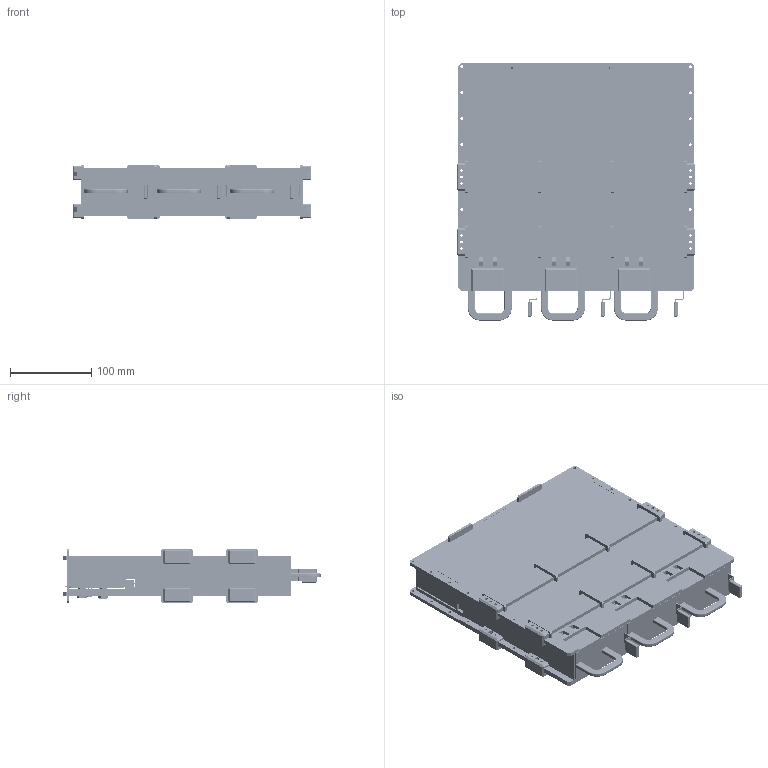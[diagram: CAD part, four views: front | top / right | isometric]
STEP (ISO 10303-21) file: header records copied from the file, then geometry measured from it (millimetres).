
FILE_DESCRIPTION(/* description */ ('STEP AP242 Edition 2','CAx-IF Rec.Pracs.---Representation and Presentation of Product Manufacturing Information (PMI)---4.0---2014-10-13','CAx-IF Rec.Pracs.---3D Tessellated Geometry---0.4---2014-09-14','2;1','CAx-IF Rec.Pracs.---User Defined Attributes---1.5---2016-08-15'),/* implementation_level */ '2;1');
FILE_NAME(/* name */ 'Enclosure',/* time_stamp */ '2026-11-16T09:17:49Z',/* author */ (''),/* organization */ (''),/* preprocessor_version */ 'ST-DEVELOPER v20',/* originating_system */ 'ONSHAPE BY PTC INC, 1.223',/* authorisation */ ' ');
FILE_SCHEMA (('AP242_MANAGED_MODEL_BASED_3D_ENGINEERING_MIM_LF { 1 0 10303 442 3 1 4 }'));
Products named in the file (48): Stick Cap 3; PSU1; PSU2; PSU3; Bottom; Bottom Padding; Middle 1; Middle 2; Side 1; Side 2; Front; Top; Stick T1; Stick T2; Stick B2; Stick B1; Stick Cap 1; Stick Cap B1; Stick Cap 2; Stick Cap B2; Stick Cap B3; Stick Cap 4; Stick Cap B4; PLA Standoff Nut 1; PLA Standoff Nut Special; PLA Standoff Nut 3; PLA Standoff Nut 4; SMD_L35.0-W8.0; SMD_L35.0-W8.0_1; SMD_L35.0-W8.0_2; SMD_L35.0-W8.0_3; SMD_L35.0-W8.0_4; SMD_L35.0-W8.0_5; SMD_L35.0-W8.0_6; SMD_L35.0-W8.0_7; WIRELM-SMD_ESP32-S3-WROOM-1; CONN-TH_64P-P2.54_ER64BGFBK; SMD_L35.0-W8.0_8; SMD_L35.0-W8.0_9; SMD_L35.0-W8.0_10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
Bounding box: 294.4 x 316.82 x 66.5 mm (x, y, z)
Volume: 3106013.7 mm3; surface area: 975294.5 mm2
Topology: 48 solids, 48 shells, 20510 faces, 56112 edges, 36962 vertices
Faces by surface type: plane 14953, cylinder 4410, bspline 1062, sphere 41, torus 24, cone 20
Full cylindrical faces by diameter (mm): 0.5 x32, 0.7 x2, 1 x192, 1.2 x6, 1.8 x120, 2.1 x4, 2.6 x4, 2.8 x16, 3.2 x4, 3.5 x116
Entity records: 680035 total; most frequent: CARTESIAN_POINT 131626, ORIENTED_EDGE 111760, DIRECTION 100339, EDGE_CURVE 55880, LINE 43515, VECTOR 43515, VERTEX_POINT 36898, AXIS2_PLACEMENT_3D 28412
